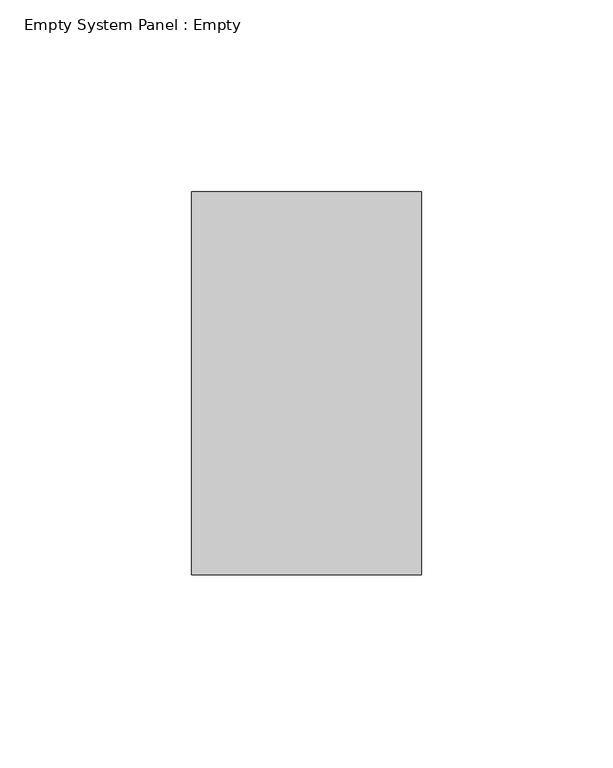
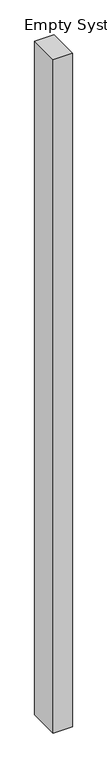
"""IFC4 building model written with IfcOpenShell, lengths in millimetres: plate geometry, Empty System Panel : Empty."""

from ifc_helpers import new_model, si_unit, origin, origin_with_axes, place, context, project, spatial, polyline, outline, extrude, source, transform, mapped, element, save


def empty_system_panel_empty_e2b6aa40(model_context):
    return source(origin(), model_context, "Body", "SweptSolid", [
        extrude(outline(polyline([(30.0000002, 50.0), (-30.0000002, 50.0), (-30.0000002, 150.0), (30.0000002, 150.0), (30.0000002, 50.0)])), origin_with_axes(), (0.0, 0.0, 1.0), 2225.0),
    ])


if __name__ == "__main__":
    model = new_model("IFC4")
    model_context = context("Model", 3, world=origin())
    ifc_project = project(units=[si_unit("LENGTHUNIT", "METRE", prefix="MILLI")], contexts=[model_context])
    site = spatial("IfcSite", under=ifc_project)
    building = spatial("IfcBuilding", under=site)
    placement = place(None, origin())
    empty_system_panel_empty_shape = empty_system_panel_empty_e2b6aa40(model_context)
    element("IfcPlate", 1, ObjectType="Empty System Panel : Empty", at=placement, inside=building, context=model_context, shape_type="MappedRepresentation", body=[
        mapped(empty_system_panel_empty_shape, transform((0.0, 0.0, 0.0), x_axis=(1.0, 0.0, 0.0), y_axis=(0.0, 1.0, 0.0), z_axis=(0.0, 0.0, 1.0))),
    ])
    save(model, "model.ifc")
